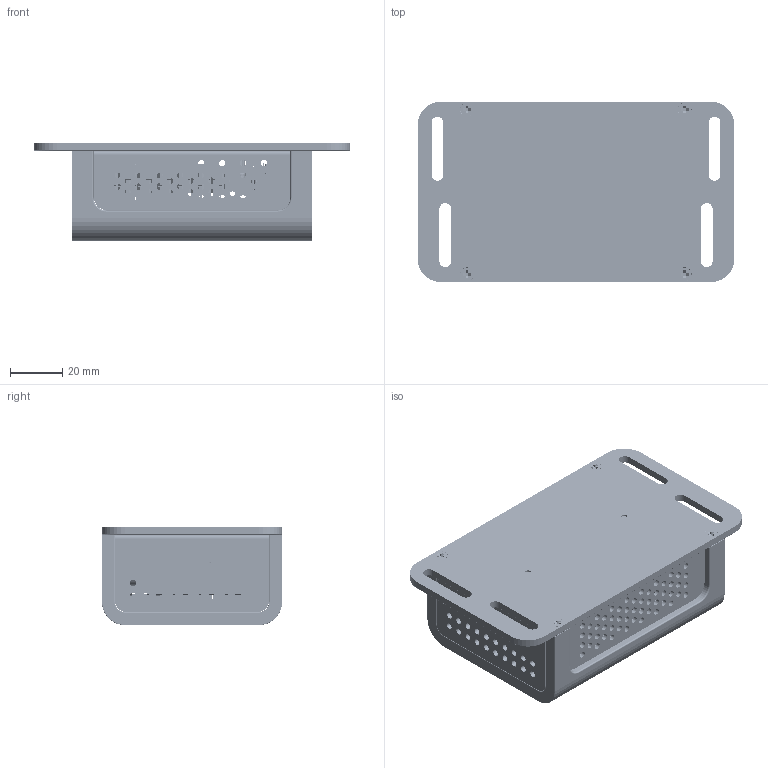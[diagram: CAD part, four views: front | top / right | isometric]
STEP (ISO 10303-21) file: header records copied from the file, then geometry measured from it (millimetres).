
FILE_DESCRIPTION((''),'2;1');
FILE_NAME('UP-PC_ASSY0809_ASM','2016-08-09T',('kevin'),(''),'PRO/ENGINEER BY PARAMETRIC TECHNOLOGY CORPORATION, 2008310','PRO/ENGINEER BY PARAMETRIC TECHNOLOGY CORPORATION, 2008310','');
FILE_SCHEMA(('CONFIG_CONTROL_DESIGN'));
Length unit declared in the file: millimetre
Products named in the file (35): BOTTOM_UPC_0518_24; 00-BASE_UPC_HANDING_HOLE1_6; TOP_UPC_0116_7; SCREW_V_M3X4_1; SCREW_P_2_5X5_5; PCB-85-56_33_1_ANY_2; 1654401932_2_1_ANY_1; PRT0001; 1654801010_5_1_ANY_1; 1654808309_5_1_ANY_1; RJ45-P03-1AK9-S-TECH_4_1_ANY_1; 1655910130_4_1_ANY_1; CPU_4_1_ANY_1; PRT0002; 5022502191_5_1_ANY_1; 5022504191_5_1_ANY_1; PRT0003; PRT0004; PRT0005; _1601000990_4_1_ANY_1; 1601000990_4_ASM_1_ANY_ASM_1_ASM; 530470210_3_1_ANY_1; PRT0006; 1RS_2_1_ANY_1; FU49_2_1_ANY_1; A885_2_1_ANY_1; 1RS-Y58_3_1_ANY_1; MEMORY_3_1_ANY_1; MEMORY-1_3_1_ANY_1; PCBA-85-56_ASM_96_ASM_1_ANY_ASM_ASM; HEATSINK0615_ANY_1; ASM0001_ASM_1_ASM; ASM0002_ASM; UP-PC_ASSY0518_ASM_18_ASM; UP-PC_ASSY0809_ASM
Assembly tree (51 placements, depth 7):
  UP-PC_ASSY0809_ASM
    UP-PC_ASSY0518_ASM_18_ASM
      BOTTOM_UPC_0518_24
      00-BASE_UPC_HANDING_HOLE1_6
      TOP_UPC_0116_7
      SCREW_V_M3X4_1  x6
      SCREW_P_2_5X5_5  x4
      ASM0002_ASM
        ASM0001_ASM_1_ASM
          PCBA-85-56_ASM_96_ASM_1_ANY_ASM_ASM
            PCB-85-56_33_1_ANY_2
            1654401932_2_1_ANY_1
            PRT0001
            1654801010_5_1_ANY_1
            1654808309_5_1_ANY_1  x2
            RJ45-P03-1AK9-S-TECH_4_1_ANY_1
            1655910130_4_1_ANY_1
            CPU_4_1_ANY_1
            PRT0002
            5022502191_5_1_ANY_1
            5022504191_5_1_ANY_1
            1601000990_4_ASM_1_ANY_ASM_1_ASM
              PRT0003
              PRT0004
              PRT0005
              _1601000990_4_1_ANY_1
            530470210_3_1_ANY_1  x2
            PRT0006
            1RS_2_1_ANY_1  x5
            FU49_2_1_ANY_1  x2
            A885_2_1_ANY_1
            1RS-Y58_3_1_ANY_1
            MEMORY_3_1_ANY_1  x2
            MEMORY-1_3_1_ANY_1  x2
          HEATSINK0615_ANY_1
Bounding box: 121.2 x 69 x 37.7 mm (x, y, z)
Volume: 112818.8 mm3; surface area: 107853.9 mm2
Topology: 45 solids, 49 shells, 12917 faces, 37848 edges, 24744 vertices
Faces by surface type: plane 10511, cylinder 2229, cone 63, torus 49, bspline 36, sphere 29
Entity records: 418144 total; most frequent: CARTESIAN_POINT 78299, ORIENTED_EDGE 73571, DIRECTION 66807, EDGE_CURVE 36800, VECTOR 31545, LINE 31545, VERTEX_POINT 24094, AXIS2_PLACEMENT_3D 17631
